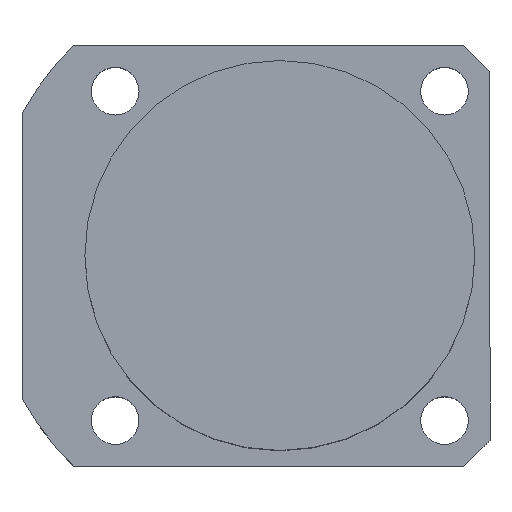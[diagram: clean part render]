
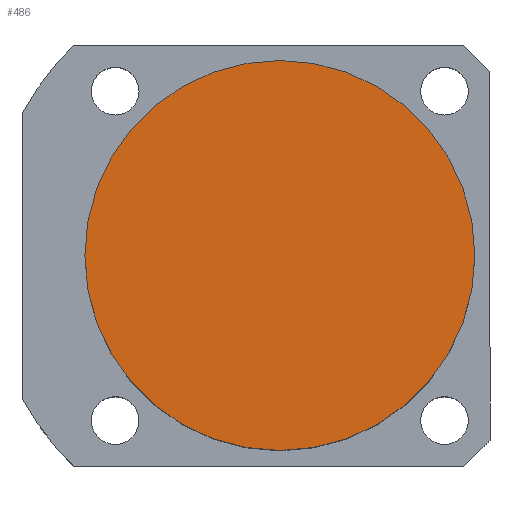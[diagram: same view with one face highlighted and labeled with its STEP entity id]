
A CAD part, top view. The second image highlights one B-rep face of the part: STEP entity #486.
In plain terms, the highlighted planar face has unit normal (0, 0, 1).
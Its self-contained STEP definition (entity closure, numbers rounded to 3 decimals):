
#109 = VERTEX_POINT ( 'NONE', #1793 ) ;
#262 = ORIENTED_EDGE ( 'NONE', *, *, #1468, .T. ) ;
#302 = CARTESIAN_POINT ( 'NONE',  ( 0., 0., 64.5 ) ) ;
#324 = DIRECTION ( 'NONE',  ( 0., 0., 1. ) ) ;
#357 = CIRCLE ( 'NONE', #1891, 45. ) ;
#477 = CIRCLE ( 'NONE', #547, 45. ) ;
#486 = ADVANCED_FACE ( 'NONE', ( #1640 ), #707, .T. ) ;
#542 = ORIENTED_EDGE ( 'NONE', *, *, #606, .T. ) ;
#547 = AXIS2_PLACEMENT_3D ( 'NONE', #578, #1152, #1899 ) ;
#578 = CARTESIAN_POINT ( 'NONE',  ( 0., 0., 64.5 ) ) ;
#581 = CARTESIAN_POINT ( 'NONE',  ( 0., 0., 64.5 ) ) ;
#606 = EDGE_CURVE ( 'NONE', #938, #109, #357, .T. ) ;
#707 = PLANE ( 'NONE',  #1618 ) ;
#865 = DIRECTION ( 'NONE',  ( 0., 0., 1. ) ) ;
#938 = VERTEX_POINT ( 'NONE', #988 ) ;
#988 = CARTESIAN_POINT ( 'NONE',  ( -45., 0., 64.5 ) ) ;
#1152 = DIRECTION ( 'NONE',  ( 0., 0., 1. ) ) ;
#1468 = EDGE_CURVE ( 'NONE', #109, #938, #477, .T. ) ;
#1518 = DIRECTION ( 'NONE',  ( 1., 0., 0. ) ) ;
#1618 = AXIS2_PLACEMENT_3D ( 'NONE', #581, #865, #1767 ) ;
#1640 = FACE_OUTER_BOUND ( 'NONE', #1765, .T. ) ;
#1765 = EDGE_LOOP ( 'NONE', ( #542, #262 ) ) ;
#1767 = DIRECTION ( 'NONE',  ( 1., 0., 0. ) ) ;
#1793 = CARTESIAN_POINT ( 'NONE',  ( 45., 0., 64.5 ) ) ;
#1891 = AXIS2_PLACEMENT_3D ( 'NONE', #302, #324, #1518 ) ;
#1899 = DIRECTION ( 'NONE',  ( 1., 0., 0. ) ) ;
